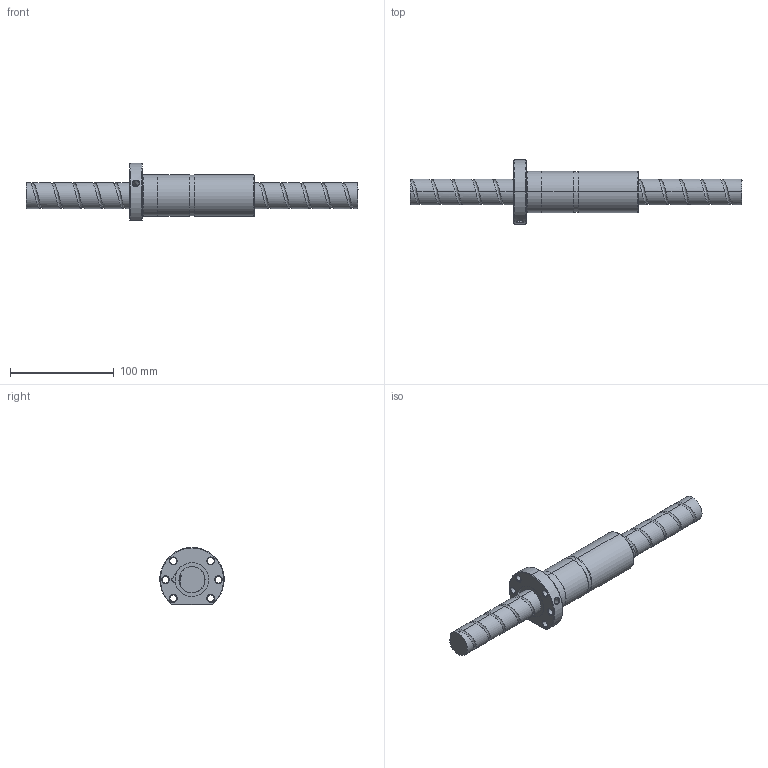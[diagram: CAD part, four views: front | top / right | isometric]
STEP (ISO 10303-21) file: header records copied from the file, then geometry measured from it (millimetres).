
FILE_DESCRIPTION (( 'STEP AP214' ), '1' );
FILE_NAME ('FDDC02520T2-B-B.STEP', '2010-07-06T03:28:32', ( 'XPAUTO' ), ( 'XPAUTO' ), 'SwSTEP 2.0', 'SolidWorks 2007', '' );
FILE_SCHEMA (( 'AUTOMOTIVE_DESIGN' ));
Length unit declared in the file: millimetre
Products named in the file (3): FDDC02520T2-B-B.sldasm-Part-1_預設; FDDC02520T2-B-B; FDDC02520T2-B-B.sldasm-Part-2_預設
Assembly tree (2 placements, depth 2):
  FDDC02520T2-B-B
    FDDC02520T2-B-B.sldasm-Part-1_預設
    FDDC02520T2-B-B.sldasm-Part-2_預設
Bounding box: 320 x 61.86 x 55 mm (x, y, z)
Volume: 258474.2 mm3; surface area: 58935.7 mm2
Topology: 2 solids, 2 shells, 132 faces, 325 edges, 202 vertices
Faces by surface type: cylinder 75, cone 24, plane 19, torus 9, bspline 5
Entity records: 25400 total; most frequent: CARTESIAN_POINT 22261, ORIENTED_EDGE 650, DIRECTION 623, EDGE_CURVE 325, AXIS2_PLACEMENT_3D 256, VERTEX_POINT 202, EDGE_LOOP 153, FACE_OUTER_BOUND 132
